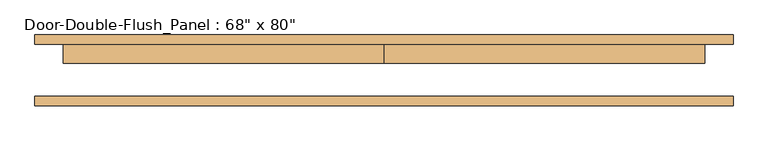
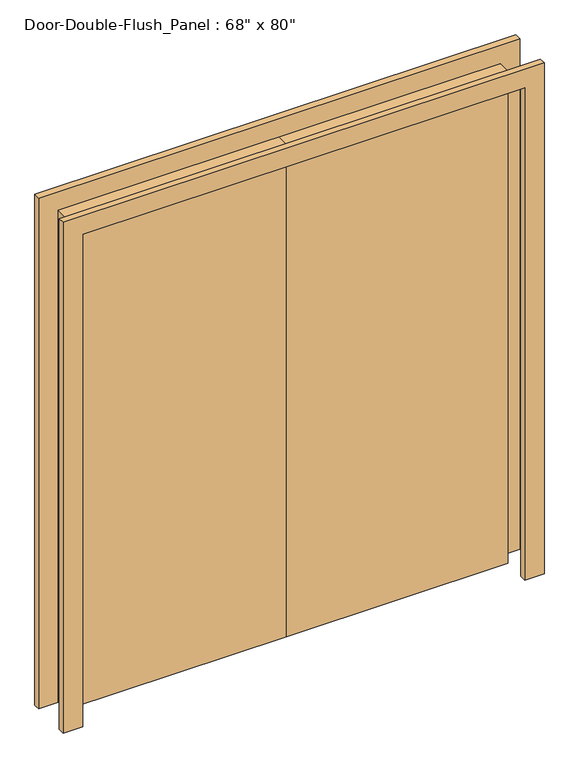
"""IFC4 building model written with IfcOpenShell, lengths in millimetres: door geometry."""

from ifc_helpers import new_model, si_unit, frame, origin, origin_with_axes, place, context, project, spatial, polyline, outline, extrude, source, transform, mapped, element, save


def door_dbb109fa(model_context):
    return source(origin(), model_context, "Body", "SweptSolid", [
        extrude(outline(polyline([(2032.0, -863.6), (2032.0, 863.6), (0.0, 863.6), (0.0, 939.8), (2108.2, 939.8), (2108.2, -939.8), (0.0, -939.8), (0.0, -863.6), (2032.0, -863.6)])), frame((0.0, -95.25, 0.0), z_axis=(0.0, 1.0, 0.0), x_axis=(0.0, 0.0, 1.0)), (0.0, 0.0, 1.0), 25.4),
        extrude(outline(polyline([(2032.0, -863.6), (2032.0, 863.6), (0.0, 863.6), (0.0, 939.8), (2108.2, 939.8), (2108.2, -939.8), (0.0, -939.8), (0.0, -863.6), (2032.0, -863.6)])), frame((0.0, 69.85, 0.0), z_axis=(0.0, 1.0, 0.0), x_axis=(0.0, 0.0, 1.0)), (0.0, 0.0, 1.0), 25.4),
        extrude(outline(polyline([(0.0, 69.85), (863.6, 69.85), (863.6, 19.05), (0.0, 19.05), (0.0, 69.85)])), origin_with_axes(), (0.0, 0.0, 1.0), 2032.0),
        extrude(outline(polyline([(-863.6, 69.85), (0.0, 69.85), (0.0, 19.05), (-863.6, 19.05), (-863.6, 69.85)])), origin_with_axes(), (0.0, 0.0, 1.0), 2032.0),
    ])


if __name__ == "__main__":
    model = new_model("IFC4")
    model_context = context("Model", 3, world=origin())
    ifc_project = project(units=[si_unit("LENGTHUNIT", "METRE", prefix="MILLI")], contexts=[model_context])
    site = spatial("IfcSite", under=ifc_project)
    building = spatial("IfcBuilding", under=site)
    placement = place(None, origin())
    door_shape = door_dbb109fa(model_context)
    element("IfcDoor", 1, ObjectType="Door-Double-Flush_Panel : 68\" x 80\"", at=placement, inside=building, context=model_context, shape_type="MappedRepresentation", body=[
        mapped(door_shape, transform((0.0, 0.0, 0.0), x_axis=(1.0, 0.0, 0.0), y_axis=(0.0, 1.0, 0.0), z_axis=(0.0, 0.0, 1.0))),
    ])
    save(model, "model.ifc")
